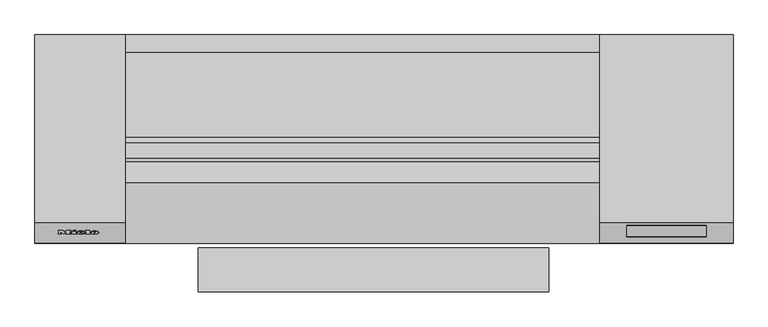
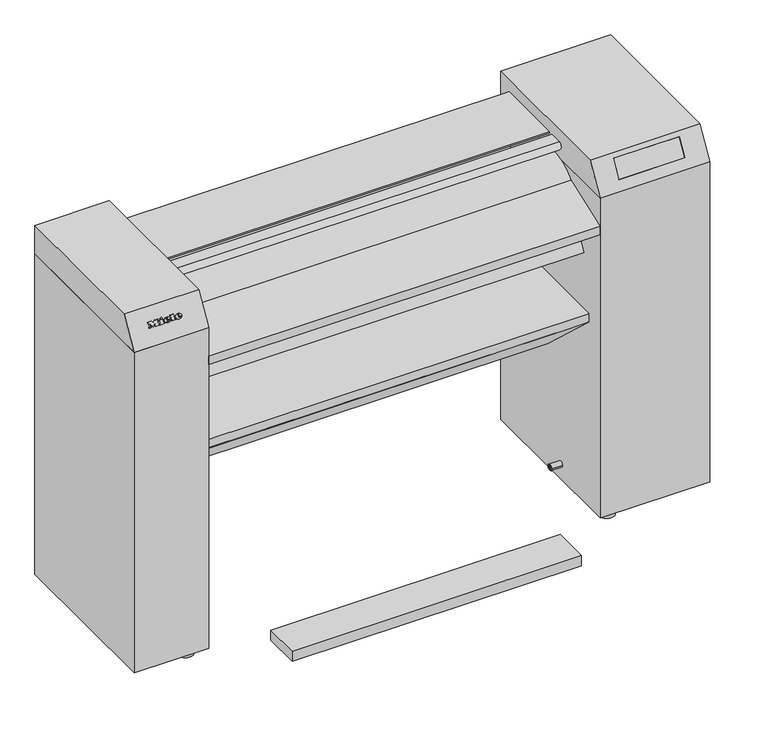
"""IFC4 building model written with IfcOpenShell, lengths in millimetres: proxy geometry, 11741250_EU_PRI210EL_STWAB : 53210003_EU_11741250_PRI210EL_STWAB."""

from ifc_helpers import new_model, si_unit, point, frame, frame_2d, origin, place, context, project, spatial, polyline, circle_curve, ellipse_curve, trimmed, segment, composite_curve, outline, extrude, faceted_brep, source, transform, mapped, element, save
from ifc_brep_helpers import plane_surface, cylinder_surface, revolved_surface, extruded_surface, advanced_brep


def specialty_equipment_22e80a76(model_context):
    return source(origin(), model_context, "Body", "SolidModel", [
        advanced_brep(
        [(-652.7523169, -447.3757952, 991.1862723), (-652.7523169, -446.6182952, 992.4983008), (-642.7173169, -446.6182952, 992.4983008), (-660.1773169, -446.6182952, 992.4983008), (-656.0523169, -449.1532952, 988.107552), (-642.9723169, -447.3757952, 991.1862723), (-647.5023169, -447.3757952, 991.1862723), (-651.0723169, -448.2157952, 989.7313496), (-652.7523169, -445.6582952, 994.1610695), (-652.7523169, -444.8407952, 995.5770211), (-650.1873169, -444.8407952, 995.5770211), (-650.1873169, -445.6582952, 994.1610695), (-652.7523169, -446.5097698, 990.6862723), (-651.0723169, -447.3497698, 989.2313496), (-647.5023169, -446.5097698, 990.6862723), (-642.9723169, -446.5097698, 990.6862723), (-656.0523169, -448.2872698, 987.607552), (-660.1773169, -445.7522698, 991.9983008), (-642.7173169, -445.7522698, 991.9983008), (-652.7523169, -445.7522698, 991.9983008), (-652.7523169, -444.7922698, 993.6610695), (-650.1873169, -444.7922698, 993.6610695), (-650.1873169, -443.9747698, 995.0770211), (-652.7523169, -443.9747698, 995.0770211)],
        [
            (0, 1),
            (1, 2),
            (2, 3, ellipse_curve(frame((-651.4473169, -446.6182952, 992.4983008), z_axis=(0.0, -0.8660254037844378, 0.5000000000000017), x_axis=(-1.0, 0.0, 0.0)), 8.73, 7.215)),
            (3, 4, circle_curve(frame((-654.3722351, -446.3632952, 992.9399737), z_axis=(0.0, -0.8660254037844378, 0.5000000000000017), x_axis=(0.0, -0.5000000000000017, -0.8660254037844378)), 5.8274415)),
            (4, 5, circle_curve(frame((-651.6220789, -444.3832952, 996.3694343), z_axis=(0.0, -0.8660254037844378, 0.5000000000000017), x_axis=(0.0, -0.5000000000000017, -0.8660254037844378)), 10.5184889)),
            (5, 6),
            (6, 7, circle_curve(frame((-650.3390816, -446.6782952, 992.3943777), z_axis=(0.0, 0.8660254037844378, -0.5000000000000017), x_axis=(0.0, -0.5000000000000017, -0.8660254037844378)), 3.1612116)),
            (7, 0, circle_curve(frame((-651.0723169, -447.3757952, 991.1862723), z_axis=(0.0, 0.8660254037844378, -0.5000000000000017), x_axis=(0.0, -0.5000000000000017, -0.8660254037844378)), 1.68)),
            (8, 9),
            (9, 10, circle_curve(frame((-651.4698169, -444.8407952, 995.5770211), z_axis=(0.0, 0.8660254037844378, -0.5000000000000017), x_axis=(0.0, -0.5000000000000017, -0.8660254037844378)), 1.2825)),
            (10, 11),
            (11, 8),
            (12, 13, circle_curve(frame((-651.0723169, -446.5097698, 990.6862723), z_axis=(0.0, -0.8660254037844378, 0.5000000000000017), x_axis=(0.0, -0.5000000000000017, -0.8660254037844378)), 1.68)),
            (13, 14, circle_curve(frame((-650.3390816, -445.8122698, 991.8943777), z_axis=(0.0, -0.8660254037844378, 0.5000000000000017), x_axis=(0.0, -0.5000000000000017, -0.8660254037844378)), 3.1612116)),
            (14, 15),
            (15, 16, circle_curve(frame((-651.6220789, -443.5172698, 995.8694343), z_axis=(0.0, 0.8660254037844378, -0.5000000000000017), x_axis=(0.0, -0.5000000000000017, -0.8660254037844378)), 10.5184889)),
            (16, 17, circle_curve(frame((-654.3722351, -445.4972698, 992.4399737), z_axis=(0.0, 0.8660254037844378, -0.5000000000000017), x_axis=(0.0, -0.5000000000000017, -0.8660254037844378)), 5.8274415)),
            (17, 18, ellipse_curve(frame((-651.4473169, -445.7522698, 991.9983008), z_axis=(0.0, 0.8660254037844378, -0.5000000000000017), x_axis=(-1.0, 0.0, 0.0)), 8.73, 7.215)),
            (18, 19),
            (19, 12),
            (20, 21),
            (21, 22),
            (22, 23, circle_curve(frame((-651.4698169, -443.9747698, 995.0770211), z_axis=(0.0, -0.8660254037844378, 0.5000000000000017), x_axis=(0.0, -0.5000000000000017, -0.8660254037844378)), 1.2825)),
            (23, 20),
            (0, 12),
            (19, 1),
            (18, 2),
            (5, 15),
            (14, 6),
            (17, 3),
            (13, 7),
            (16, 4),
            (8, 20),
            (23, 9),
            (22, 10),
            (21, 11),
        ],
        [
            plane_surface(frame((-652.7523169, -446.6182952, 992.4983008), z_axis=(0.0, -0.8660254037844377, 0.5000000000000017), x_axis=(0.0, 0.5000000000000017, 0.8660254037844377))),
            plane_surface(frame((-652.7523169, -445.7522698, 991.9983008), z_axis=(0.0, 0.8660254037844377, -0.5000000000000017), x_axis=(0.0, -0.5000000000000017, -0.8660254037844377))),
            plane_surface(frame((-652.7523169, -447.3757952, 991.1862723), z_axis=(1.0, 0.0, 0.0), x_axis=(0.0, 0.866025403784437, -0.5000000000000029))),
            plane_surface(frame((-652.7523169, -446.6182952, 992.4983008), z_axis=(0.0, -0.5000000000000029, -0.866025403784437), x_axis=(0.0, 0.866025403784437, -0.5000000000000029))),
            plane_surface(frame((-642.9723169, -447.3757952, 991.1862723), z_axis=(0.0, 0.5000000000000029, 0.866025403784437), x_axis=(0.0, 0.866025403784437, -0.5000000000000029))),
            extruded_surface(trimmed(ellipse_curve(frame((-651.4473169, -444.8862443, 991.4983008), z_axis=(0.0, -0.8660254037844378, 0.5000000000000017), x_axis=(-1.0, 0.0, 0.0)), 8.73, 7.215), [point((-642.7173169, -444.8862443, 991.4983008))], [point((-660.1773169, -444.8862443, 991.4983008))], True, "CARTESIAN"), (0.0, -0.8660255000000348, 0.5), 1.0000000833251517),
            revolved_surface(polyline([(-650.3390816, -447.3928756, 989.156688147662), (-650.3390816, -448.25890101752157, 989.6566881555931)]), (-650.3390816, -445.8122698, 991.8943777), (0.0, 0.8660254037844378, -0.5000000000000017)),
            revolved_surface(polyline([(-651.0723169, -447.34976979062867, 989.2313496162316), (-651.0723169, -448.2157952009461, 989.7313496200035)]), (-651.0723169, -446.5097698, 990.6862723), (0.0, 0.8660254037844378, -0.5000000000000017)),
            cylinder_surface(frame((-654.3722351, -445.4972698, 992.4399737), z_axis=(0.0, -0.8660254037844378, 0.5000000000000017), x_axis=(0.0, -0.5000000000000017, -0.8660254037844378)), 5.8274415),
            cylinder_surface(frame((-651.6220789, -443.5172698, 995.8694343), z_axis=(0.0, -0.8660254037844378, 0.5000000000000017), x_axis=(0.0, -0.5000000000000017, -0.8660254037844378)), 10.5184889),
            plane_surface(frame((-652.7523169, -445.6582952, 994.1610695), z_axis=(1.0, 0.0, 0.0), x_axis=(0.0, 0.866025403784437, -0.5000000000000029))),
            revolved_surface(polyline([(-651.4698169, -444.6160198, 993.9663435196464), (-651.4698169, -445.4820452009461, 994.4663435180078)]), (-651.4698169, -443.9747698, 995.0770211), (0.0, 0.8660254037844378, -0.5000000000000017)),
            plane_surface(frame((-650.1873169, -444.8407952, 995.5770211), z_axis=(-1.0, 0.0, 0.0), x_axis=(0.0, 0.866025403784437, -0.5000000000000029))),
            plane_surface(frame((-650.1873169, -445.6582952, 994.1610695), z_axis=(0.0, 0.5000000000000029, 0.866025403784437), x_axis=(0.0, 0.866025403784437, -0.5000000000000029))),
        ],
        [
            (0, [[1, 2, 3, 4, 5, 6, 7, 8], [9, 10, 11, 12]]),
            (1, [[13, 14, 15, 16, 17, 18, 19, 20], [21, 22, 23, 24]]),
            (2, [[-1, 25, -20, 26]]),
            (3, [[-2, -26, -19, 27]]),
            (4, [[-6, 28, -15, 29]]),
            (5, [[-3, -27, -18, 30]]),
            (6, [[-7, -29, -14, 31]]),
            (7, [[-8, -31, -13, -25]]),
            (8, [[-4, -30, -17, 32]]),
            (9, [[-5, -32, -16, -28]]),
            (10, [[-9, 33, -24, 34]]),
            (11, [[-10, -34, -23, 35]]),
            (12, [[-11, -35, -22, 36]]),
            (13, [[-12, -36, -21, -33]]),
        ],
    ),
        advanced_brep(
        [(-684.0573169, -447.4169091, 991.4160863), (-684.0573169, -446.6594091, 992.7281147), (-674.0223169, -446.6594091, 992.7281147), (-691.4823169, -446.6594091, 992.7281147), (-687.3573169, -449.1944091, 988.3373659), (-674.2773169, -447.4169091, 991.4160863), (-678.8073169, -447.4169091, 991.4160863), (-682.3773169, -448.2569091, 989.9611636), (-684.0573169, -445.6994091, 994.3908835), (-684.0573169, -444.8819091, 995.8068351), (-681.4923169, -444.8819091, 995.8068351), (-681.4923169, -445.6994091, 994.3908835), (-684.0573169, -446.5508837, 990.9160863), (-682.3773169, -447.3908837, 989.4611636), (-678.8073169, -446.5508837, 990.9160863), (-674.2773169, -446.5508837, 990.9160863), (-687.3573169, -448.3283837, 987.8373659), (-691.4823169, -445.7933837, 992.2281147), (-674.0223169, -445.7933837, 992.2281147), (-684.0573169, -445.7933837, 992.2281147), (-684.0573169, -444.8333837, 993.8908835), (-681.4923169, -444.8333837, 993.8908835), (-681.4923169, -444.0158837, 995.3068351), (-684.0573169, -444.0158837, 995.3068351)],
        [
            (0, 1),
            (1, 2),
            (2, 3, ellipse_curve(frame((-682.7523169, -446.6594091, 992.7281147), z_axis=(0.0, -0.8660254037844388, 0.4999999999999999), x_axis=(-1.0, 0.0, 0.0)), 8.73, 7.215)),
            (3, 4, circle_curve(frame((-685.6772351, -446.4044091, 993.1697877), z_axis=(0.0, -0.8660254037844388, 0.4999999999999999), x_axis=(0.0, -0.4999999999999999, -0.8660254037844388)), 5.8274415)),
            (4, 5, circle_curve(frame((-682.9270789, -444.4244091, 996.5992483), z_axis=(0.0, -0.8660254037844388, 0.4999999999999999), x_axis=(0.0, -0.4999999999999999, -0.8660254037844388)), 10.5184889)),
            (5, 6),
            (6, 7, circle_curve(frame((-681.6440816, -446.7194091, 992.6241917), z_axis=(0.0, 0.8660254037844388, -0.4999999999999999), x_axis=(0.0, -0.4999999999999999, -0.8660254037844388)), 3.1612116)),
            (7, 0, circle_curve(frame((-682.3773169, -447.4169091, 991.4160863), z_axis=(0.0, 0.8660254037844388, -0.4999999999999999), x_axis=(0.0, -0.4999999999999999, -0.8660254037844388)), 1.68)),
            (8, 9),
            (9, 10, circle_curve(frame((-682.7748169, -444.8819091, 995.8068351), z_axis=(0.0, 0.8660254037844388, -0.4999999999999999), x_axis=(0.0, -0.4999999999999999, -0.8660254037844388)), 1.2825)),
            (10, 11),
            (11, 8),
            (12, 13, circle_curve(frame((-682.3773169, -446.5508837, 990.9160863), z_axis=(0.0, -0.8660254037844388, 0.4999999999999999), x_axis=(0.0, -0.4999999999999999, -0.8660254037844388)), 1.68)),
            (13, 14, circle_curve(frame((-681.6440816, -445.8533837, 992.1241917), z_axis=(0.0, -0.8660254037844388, 0.4999999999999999), x_axis=(0.0, -0.4999999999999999, -0.8660254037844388)), 3.1612116)),
            (14, 15),
            (15, 16, circle_curve(frame((-682.9270789, -443.5583837, 996.0992483), z_axis=(0.0, 0.8660254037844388, -0.4999999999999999), x_axis=(0.0, -0.4999999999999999, -0.8660254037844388)), 10.5184889)),
            (16, 17, circle_curve(frame((-685.6772351, -445.5383837, 992.6697877), z_axis=(0.0, 0.8660254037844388, -0.4999999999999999), x_axis=(0.0, -0.4999999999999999, -0.8660254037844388)), 5.8274415)),
            (17, 18, ellipse_curve(frame((-682.7523169, -445.7933837, 992.2281147), z_axis=(0.0, 0.8660254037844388, -0.4999999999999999), x_axis=(-1.0, 0.0, 0.0)), 8.73, 7.215)),
            (18, 19),
            (19, 12),
            (20, 21),
            (21, 22),
            (22, 23, circle_curve(frame((-682.7748169, -444.0158837, 995.3068351), z_axis=(0.0, -0.8660254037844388, 0.4999999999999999), x_axis=(0.0, -0.4999999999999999, -0.8660254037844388)), 1.2825)),
            (23, 20),
            (0, 12),
            (19, 1),
            (18, 2),
            (5, 15),
            (14, 6),
            (17, 3),
            (13, 7),
            (16, 4),
            (8, 20),
            (23, 9),
            (22, 10),
            (21, 11),
        ],
        [
            plane_surface(frame((-684.0573169, -446.6594091, 992.7281147), z_axis=(0.0, -0.8660254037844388, 0.49999999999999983), x_axis=(0.0, 0.49999999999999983, 0.8660254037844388))),
            plane_surface(frame((-684.0573169, -445.7933837, 992.2281147), z_axis=(0.0, 0.8660254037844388, -0.49999999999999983), x_axis=(0.0, -0.49999999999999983, -0.8660254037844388))),
            plane_surface(frame((-684.0573169, -447.4169091, 991.4160863), z_axis=(1.0, 0.0, 0.0), x_axis=(0.0, 0.866025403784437, -0.5000000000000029))),
            plane_surface(frame((-684.0573169, -446.6594091, 992.7281147), z_axis=(0.0, -0.5000000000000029, -0.866025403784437), x_axis=(0.0, 0.866025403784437, -0.5000000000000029))),
            plane_surface(frame((-674.2773169, -447.4169091, 991.4160863), z_axis=(0.0, 0.5000000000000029, 0.866025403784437), x_axis=(0.0, 0.866025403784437, -0.5000000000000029))),
            extruded_surface(trimmed(ellipse_curve(frame((-682.7523169, -444.9273583, 991.7281147), z_axis=(0.0, -0.8660254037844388, 0.4999999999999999), x_axis=(-1.0, 0.0, 0.0)), 8.73, 7.215), [point((-674.0223169, -444.9273583, 991.7281147))], [point((-691.4823169, -444.9273583, 991.7281147))], True, "CARTESIAN"), (0.0, -0.8660254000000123, 0.5), 0.9999999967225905),
            revolved_surface(polyline([(-681.6440816, -447.4339895, 989.386502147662), (-681.6440816, -448.30001491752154, 989.8865021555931)]), (-681.6440816, -445.8533837, 992.1241917), (0.0, 0.8660254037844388, -0.4999999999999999)),
            revolved_surface(polyline([(-682.3773169, -447.39088369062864, 989.4611636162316), (-682.3773169, -448.2569091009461, 989.9611636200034)]), (-682.3773169, -446.5508837, 990.9160863), (0.0, 0.8660254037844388, -0.4999999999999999)),
            cylinder_surface(frame((-685.6772351, -445.5383837, 992.6697877), z_axis=(0.0, -0.8660254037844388, 0.4999999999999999), x_axis=(0.0, -0.4999999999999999, -0.8660254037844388)), 5.8274415),
            cylinder_surface(frame((-682.9270789, -443.5583837, 996.0992483), z_axis=(0.0, -0.8660254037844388, 0.4999999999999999), x_axis=(0.0, -0.4999999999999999, -0.8660254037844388)), 10.5184889),
            plane_surface(frame((-684.0573169, -445.6994091, 994.3908835), z_axis=(1.0, 0.0, 0.0), x_axis=(0.0, 0.866025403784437, -0.5000000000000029))),
            revolved_surface(polyline([(-682.7748169, -444.65713370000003, 994.1961575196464), (-682.7748169, -445.5231591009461, 994.6961575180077)]), (-682.7748169, -444.0158837, 995.3068351), (0.0, 0.8660254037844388, -0.4999999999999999)),
            plane_surface(frame((-681.4923169, -444.8819091, 995.8068351), z_axis=(-1.0, 0.0, 0.0), x_axis=(0.0, 0.866025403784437, -0.5000000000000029))),
            plane_surface(frame((-681.4923169, -445.6994091, 994.3908835), z_axis=(0.0, 0.5000000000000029, 0.866025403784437), x_axis=(0.0, 0.866025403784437, -0.5000000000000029))),
        ],
        [
            (0, [[1, 2, 3, 4, 5, 6, 7, 8], [9, 10, 11, 12]]),
            (1, [[13, 14, 15, 16, 17, 18, 19, 20], [21, 22, 23, 24]]),
            (2, [[-1, 25, -20, 26]]),
            (3, [[-2, -26, -19, 27]]),
            (4, [[-6, 28, -15, 29]]),
            (5, [[-3, -27, -18, 30]]),
            (6, [[-7, -29, -14, 31]]),
            (7, [[-8, -31, -13, -25]]),
            (8, [[-4, -30, -17, 32]]),
            (9, [[-5, -32, -16, -28]]),
            (10, [[-9, 33, -24, 34]]),
            (11, [[-10, -34, -23, 35]]),
            (12, [[-11, -35, -22, 36]]),
            (13, [[-12, -36, -21, -33]]),
        ],
    ),
        extrude(outline(polyline([(0.0, 0.0), (-0.0204536, -5.6237427), (-2.6982028, -5.6101628), (-2.6841199, 0.0), (0.0, 0.0)])), frame((-700.4523169, -441.5333837, 999.6066512), z_axis=(0.0, -0.8660254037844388, 0.49999999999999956), x_axis=(-0.42472021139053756, 0.45266233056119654, 0.7840341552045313)), (0.0, 0.0, 1.0), 1.0),
        extrude(outline(polyline([(-0.9251077, 4.5264556), (-5.2126582, -4.6127968), (-13.2112016, -0.8603937), (-13.9502148, -2.4356586), (-16.2316329, -1.3653637), (-11.2050692, 9.3491537), (-8.9236511, 8.2788587), (-9.6817767, 6.6628542), (-4.11403, 4.0508249), (-3.3559044, 5.6668294), (-0.9251077, 4.5264556)])), frame((-700.4523169, -441.5333837, 999.6066512), z_axis=(0.0, -0.8660254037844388, 0.49999999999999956), x_axis=(-0.42472021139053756, 0.45266233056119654, 0.7840341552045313)), (0.0, 0.0, 1.0), 1.0),
        extrude(outline(polyline([(0.0, 0.0), (0.0, -2.445), (-10.32, -2.445), (-10.32, 10.035), (-12.165, 10.035), (-12.165, 12.555), (0.0, 12.555), (0.0, 10.035), (-1.8, 10.035), (-1.8, 0.0), (0.0, 0.0)])), frame((-673.1823169, -442.1037246, 998.3177663), z_axis=(0.0, -0.8660254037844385, 0.5000000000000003), x_axis=(-1.0, 0.0, 0.0)), (0.0, 0.0, 1.0), 1.0),
        extrude(outline(polyline([(0.0, 0.0), (0.0, -2.445), (-10.455, -2.445), (-14.85, 3.18), (-19.23, -2.445), (-28.365, -2.445), (-28.365, 0.0), (-26.46, 0.0), (-26.46, 10.035), (-28.365, 10.035), (-28.365, 12.555), (-16.395, 12.555), (-16.395, 10.035), (-18.24, 10.035), (-18.24, 3.3647777), (-11.505, 12.555), (-4.8, 3.6988752), (-4.8, 10.035), (-6.6, 10.035), (-6.6, 12.555), (0.0, 12.555), (0.0, 10.035), (-1.815, 10.035), (-1.815, 0.0), (0.0, 0.0)])), frame((-734.0523169, -442.0288964, 998.4473726), z_axis=(0.0, -0.8660254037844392, 0.4999999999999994), x_axis=(-1.0, 0.0, 0.0)), (0.0, 0.0, 1.0), 1.0),
        extrude(outline(polyline([(-365.9889853, 793.6796927), (-390.6353849, 749.1868935), (-365.9889853, 749.1868935), (-365.9889853, 747.1868935), (-393.8714528, 747.1868935), (-367.9889853, 794.1518286), (-367.9889853, 838.0716898), (-379.8372457, 861.7682107), (-377.0332443, 861.7682107), (-365.9889853, 839.6796927), (-365.9889853, 793.6796927)])), frame((-583.5, 0.0, 0.0), z_axis=(1.0, 0.0, 0.0), x_axis=(0.0, 1.0, 0.0)), (0.0, 0.0, 1.0), 1070.0),
        extrude(outline(polyline([(-395.0, 843.9863336), (-470.0, 843.9863336), (-470.0, 868.9863336), (-334.0, 918.9863336), (-395.0, 843.9863336)])), frame((-583.5, 0.0, 0.0), z_axis=(1.0, 0.0, 0.0), x_axis=(0.0, 1.0, 0.0)), (0.0, 0.0, 1.0), 1070.0),
        extrude(outline(composite_curve([segment(polyline([(-244.0, 997.2863336), (-244.0, 960.4103132)]), True, "CONTINUOUS"), segment(trimmed(circle_curve(frame_2d((-245.9233585, 960.4103132)), 1.9233585), [point((-244.0, 960.4103132))], [point((-246.9899766, 958.8098028))], False, "CARTESIAN"), True, "CONTINUOUS"), segment(polyline([(-246.9899766, 958.8098028), (-279.640261, 975.4459536)]), True, "CONTINUOUS"), segment(trimmed(circle_curve(frame_2d((-274.2619572, 986.0014691)), 11.846732), [point((-279.640261, 975.4459536))], [point((-277.8670773, 997.2863336))], False, "CARTESIAN"), True, "CONTINUOUS"), segment(polyline([(-277.8670773, 997.2863336), (-244.0, 997.2863336)]), True, "CONTINUOUS")], self_intersect=False)), frame((-583.5, 0.0, 0.0), z_axis=(1.0, 0.0, 0.0), x_axis=(0.0, 1.0, 0.0)), (0.0, 0.0, 1.0), 1070.0),
        extrude(outline(polyline([(-45.0, 850.9863336), (-40.0, 850.9863336), (-40.0, 803.3618723), (-66.0513656, 731.7863336), (-150.9374699, 731.7863336), (-150.9374699, 736.7863336), (-69.5524033, 736.7863336), (-45.0, 804.2435072), (-45.0, 850.9863336)])), frame((-583.5, 0.0, 0.0), z_axis=(1.0, 0.0, 0.0), x_axis=(0.0, 1.0, 0.0)), (0.0, 0.0, 1.0), 1070.0),
        extrude(outline(polyline([(-40.0, 997.2863336), (-40.0, 850.9863336), (-45.0, 850.9863336), (-45.0, 992.2863336), (-230.0, 992.2863336), (-230.0, 997.2863336), (-40.0, 997.2863336)])), frame((-583.5, 0.0, 0.0), z_axis=(1.0, 0.0, 0.0), x_axis=(0.0, 1.0, 0.0)), (0.0, 0.0, 1.0), 1070.0),
        extrude(outline(composite_curve([segment(trimmed(circle_curve(frame_2d((-391.7984705, 818.1117592)), 5.0), [point((-396.7984705, 818.1117592))], [point((-386.7984705, 818.1117592))], False, "CARTESIAN"), True, "CONTINUOUS"), segment(trimmed(circle_curve(frame_2d((-391.7984705, 818.1117592)), 5.0), [point((-386.7984705, 818.1117592))], [point((-396.7984705, 818.1117592))], False, "CARTESIAN"), True, "CONTINUOUS")], self_intersect=False)), frame((-583.5, 0.0, 0.0), z_axis=(1.0, 0.0, 0.0), x_axis=(0.0, 1.0, 0.0)), (0.0, 0.0, 1.0), 793.0),
        extrude(outline(polyline([(371.5, -480.0), (371.5, -580.0), (-418.5, -580.0), (-418.5, -480.0), (371.5, -480.0)])), frame((0.0, 0.0, -6.0136664), z_axis=(0.0, 0.0, 1.0), x_axis=(1.0, 0.0, 0.0)), (0.0, 0.0, 1.0), 30.0),
        extrude(outline(polyline([(-422.6572779, 1031.9863336), (0.0, 1031.9863336), (0.0, 949.9863336), (-470.0, 949.9863336), (-422.6572779, 1031.9863336)])), frame((-786.5, 0.0, 0.0), z_axis=(1.0, 0.0, 0.0), x_axis=(0.0, 1.0, 0.0)), (0.0, 0.0, 1.0), 203.0),
        extrude(outline(composite_curve([segment(trimmed(circle_curve(frame_2d((-623.9685993, -40.5)), 21.5), [point((-645.4685993, -40.5))], [point((-602.4685993, -40.5))], False, "CARTESIAN"), True, "CONTINUOUS"), segment(trimmed(circle_curve(frame_2d((-623.9685993, -40.5)), 21.5), [point((-602.4685993, -40.5))], [point((-645.4685993, -40.5))], False, "CARTESIAN"), True, "CONTINUOUS")], self_intersect=False)), frame((0.0, 0.0, -0.0136664), z_axis=(0.0, 0.0, 1.0), x_axis=(1.0, 0.0, 0.0)), (0.0, 0.0, 1.0), 23.0),
        extrude(outline(composite_curve([segment(trimmed(circle_curve(frame_2d((-623.9685993, -429.5)), 21.5), [point((-645.4685993, -429.5))], [point((-602.4685993, -429.5))], False, "CARTESIAN"), True, "CONTINUOUS"), segment(trimmed(circle_curve(frame_2d((-623.9685993, -429.5)), 21.5), [point((-602.4685993, -429.5))], [point((-645.4685993, -429.5))], False, "CARTESIAN"), True, "CONTINUOUS")], self_intersect=False)), frame((0.0, 0.0, -0.0136664), z_axis=(0.0, 0.0, 1.0), x_axis=(1.0, 0.0, 0.0)), (0.0, 0.0, 1.0), 23.0),
        extrude(outline(polyline([(-583.5, 0.0), (-583.5, -470.0), (-786.5, -470.0), (-786.5, 0.0), (-583.5, 0.0)])), frame((0.0, 0.0, 22.9863336), z_axis=(0.0, 0.0, 1.0), x_axis=(1.0, 0.0, 0.0)), (0.0, 0.0, 1.0), 927.0),
        extrude(outline(polyline([(0.0236709, 379.9863336), (-223.5359646, 379.9863336), (-417.2970905, 559.9863336), (0.0236709, 559.9863336), (0.0236709, 379.9863336)])), frame((-583.5, 0.0, 0.0), z_axis=(1.0, 0.0, 0.0), x_axis=(0.0, 1.0, 0.0)), (0.0, 0.0, 1.0), 1070.0),
        extrude(outline(polyline([(486.5, 0.0236709), (486.5, -417.9763291), (-583.5, -417.9763291), (-583.5, 0.0236709), (486.5, 0.0236709)])), frame((0.0, 0.0, 559.9863336), z_axis=(0.0, 0.0, 1.0), x_axis=(1.0, 0.0, 0.0)), (0.0, 0.0, 1.0), 25.0),
        faceted_brep([(786.5, 0.0236709, 949.9863336), (786.5, 0.0236709, 1031.9863336), (786.5, -422.9763291, 1031.9863336), (786.5, -469.9763291, 949.9863336), (486.5, 0.0236709, 949.9863336), (486.5, -469.9763291, 949.9863336), (486.5, -422.9763291, 1031.9863336), (486.5, 0.0236709, 1031.9863336), (546.5, -429.3510672, 1019.6169127), (725.8679662, -429.3510672, 1019.6169127), (725.8679662, -429.8883285, 1019.9271007), (546.5, -429.8883285, 1019.9271007), (546.5, -455.5716302, 974.2015654), (546.5, -455.966272, 974.429412), (725.8679662, -455.5716302, 974.2015654), (725.8679662, -455.966272, 974.429412)], [[[0, 1, 2, 3]], [[4, 5, 6, 7]], [[0, 3, 5, 4]], [[1, 0, 4, 7]], [[8, 9, 10, 11]], [[12, 8, 11, 13]], [[14, 12, 13, 15]], [[9, 14, 15, 10]], [[9, 8, 12, 14]], [[2, 1, 7, 6]], [[3, 2, 6, 5], [11, 10, 15, 13]]]),
        extrude(outline(composite_curve([segment(trimmed(circle_curve(frame_2d((527.1327502, -40.4763291)), 21.5), [point((505.6327502, -40.4763291))], [point((548.6327502, -40.4763291))], False, "CARTESIAN"), True, "CONTINUOUS"), segment(trimmed(circle_curve(frame_2d((527.1327502, -40.4763291)), 21.5), [point((548.6327502, -40.4763291))], [point((505.6327502, -40.4763291))], False, "CARTESIAN"), True, "CONTINUOUS")], self_intersect=False)), frame((0.0, 0.0, -0.0136664), z_axis=(0.0, 0.0, 1.0), x_axis=(1.0, 0.0, 0.0)), (0.0, 0.0, 1.0), 25.0),
        extrude(outline(composite_curve([segment(trimmed(circle_curve(frame_2d((527.1327502, -429.4763291)), 21.5), [point((505.6327502, -429.4763291))], [point((548.6327502, -429.4763291))], False, "CARTESIAN"), True, "CONTINUOUS"), segment(trimmed(circle_curve(frame_2d((527.1327502, -429.4763291)), 21.5), [point((548.6327502, -429.4763291))], [point((505.6327502, -429.4763291))], False, "CARTESIAN"), True, "CONTINUOUS")], self_intersect=False)), frame((0.0, 0.0, -0.0136664), z_axis=(0.0, 0.0, 1.0), x_axis=(1.0, 0.0, 0.0)), (0.0, 0.0, 1.0), 25.0),
        extrude(outline(composite_curve([segment(trimmed(circle_curve(frame_2d((-251.3303793, 844.9863336)), 110.0), [point((-361.3303793, 844.9863336))], [point((-141.3303793, 844.9863336))], False, "CARTESIAN"), True, "CONTINUOUS"), segment(trimmed(circle_curve(frame_2d((-251.3303793, 844.9863336)), 110.0), [point((-141.3303793, 844.9863336))], [point((-361.3303793, 844.9863336))], False, "CARTESIAN"), True, "CONTINUOUS")], self_intersect=False), holes=[composite_curve([segment(trimmed(circle_curve(frame_2d((-251.3303793, 844.9863336)), 97.0), [point((-348.3303793, 844.9863336))], [point((-154.3303793, 844.9863336))], True, "CARTESIAN"), True, "CONTINUOUS"), segment(trimmed(circle_curve(frame_2d((-251.3303793, 844.9863336)), 97.0), [point((-154.3303793, 844.9863336))], [point((-348.3303793, 844.9863336))], True, "CARTESIAN"), True, "CONTINUOUS")], self_intersect=False)]), frame((-583.5, 0.0, 0.0), z_axis=(1.0, 0.0, 0.0), x_axis=(0.0, 1.0, 0.0)), (0.0, 0.0, 1.0), 1070.0),
        extrude(outline(polyline([(-277.5990688, 64.9863336), (-284.9763291, 64.9863336), (-284.9763291, 66.2420375), (-278.8547727, 66.2420375), (-278.8547727, 69.5382602), (-284.5054402, 69.5382602), (-284.5054402, 70.793964), (-278.8547727, 70.793964), (-278.8547727, 73.7762607), (-284.8193661, 73.7762607), (-284.8193661, 75.0319646), (-277.5990688, 75.0319646), (-277.5990688, 64.9863336)])), frame((455.5, 0.0, 0.0), z_axis=(1.0, 0.0, 0.0), x_axis=(0.0, 1.0, 0.0)), (0.0, 0.0, 1.0), 1.0),
        extrude(outline(polyline([(-286.8598849, 64.9863336), (-293.1384043, 64.9863336), (-293.1384043, 66.2420375), (-288.1155888, 66.2420375), (-288.1155888, 75.0319646), (-286.8598849, 75.0319646), (-286.8598849, 64.9863336)])), frame((455.5, 0.0, 0.0), z_axis=(1.0, 0.0, 0.0), x_axis=(0.0, 1.0, 0.0)), (0.0, 0.0, 1.0), 1.0),
        extrude(outline(composite_curve([segment(trimmed(circle_curve(frame_2d((-284.9763291, 69.9863336)), 8.0), [point((-292.9763291, 69.9863336))], [point((-276.9763291, 69.9863336))], False, "CARTESIAN"), True, "CONTINUOUS"), segment(trimmed(circle_curve(frame_2d((-284.9763291, 69.9863336)), 8.0), [point((-276.9763291, 69.9863336))], [point((-292.9763291, 69.9863336))], False, "CARTESIAN"), True, "CONTINUOUS")], self_intersect=False)), frame((456.5, 0.0, 0.0), z_axis=(1.0, 0.0, 0.0), x_axis=(0.0, 1.0, 0.0)), (0.0, 0.0, 1.0), 30.0),
        extrude(outline(polyline([(786.5, 0.0236709), (786.5, -469.9763291), (486.5, -469.9763291), (486.5, 0.0236709), (786.5, 0.0236709)])), frame((0.0, 0.0, 24.9863336), z_axis=(0.0, 0.0, 1.0), x_axis=(1.0, 0.0, 0.0)), (0.0, 0.0, 1.0), 925.0),
        extrude(outline(polyline([(0.0, -0.940491), (0.0, 0.0), (180.0, 0.0), (180.0, -0.940491), (0.0, -0.940491)])), frame((726.5, -455.480932, 974.8011357), z_axis=(0.0, 0.5000000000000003, 0.8660254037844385), x_axis=(-1.0, 0.0, 0.0)), (0.0, 0.0, 1.0), 51.8765337),
    ])


if __name__ == "__main__":
    model = new_model("IFC4")
    model_context = context("Model", 3, world=origin())
    ifc_project = project(units=[si_unit("LENGTHUNIT", "METRE", prefix="MILLI")], contexts=[model_context])
    site = spatial("IfcSite", under=ifc_project)
    building = spatial("IfcBuilding", under=site)
    placement = place(None, origin())
    specialty_equipment_shape = specialty_equipment_22e80a76(model_context)
    element("IfcBuildingElementProxy", 1, Name="11741250_EU_PRI210EL_STWAB : 53210003_EU_11741250_PRI210EL_STWAB", ObjectType="11741250_EU_PRI210EL_STWAB : 53210003_EU_11741250_PRI210EL_STWAB", at=placement, inside=building, context=model_context, shape_type="MappedRepresentation", body=[
        mapped(specialty_equipment_shape, transform((0.0, 0.0, 0.0), x_axis=(1.0, 0.0, 0.0), y_axis=(0.0, 1.0, 0.0), z_axis=(0.0, 0.0, 1.0))),
    ])
    save(model, "model.ifc")
